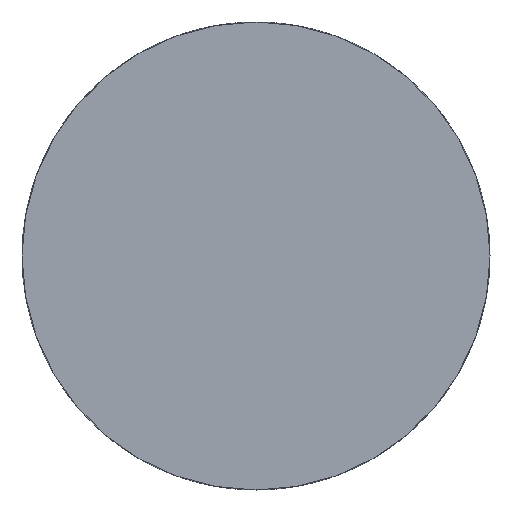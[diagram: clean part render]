
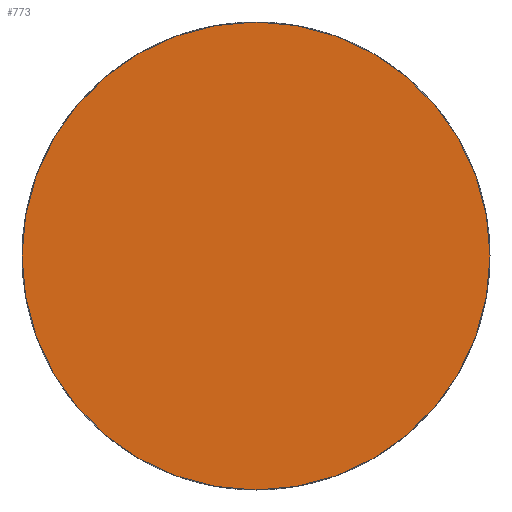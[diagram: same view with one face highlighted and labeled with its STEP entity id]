
A CAD part, left-side view. The second image highlights one B-rep face of the part: STEP entity #773.
In plain terms, the highlighted planar face has unit normal (-1, 0, 0).
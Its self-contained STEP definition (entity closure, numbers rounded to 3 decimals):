
#773 = ADVANCED_FACE( '', ( #1577 ), #1578, .F. );
#1577 = FACE_OUTER_BOUND( '', #2410, .T. );
#1578 = PLANE( '', #2411 );
#2410 = EDGE_LOOP( '', ( #4822 ) );
#2411 = AXIS2_PLACEMENT_3D( '', #4823, #4824, #4825 );
#4822 = ORIENTED_EDGE( '', *, *, #6297, .F. );
#4823 = CARTESIAN_POINT( '', ( 0., 0., 0. ) );
#4824 = DIRECTION( '', ( 1., 0., 0. ) );
#4825 = DIRECTION( '', ( 0., 0., -1. ) );
#6297 = EDGE_CURVE( '', #7933, #7933, #7934, .T. );
#7933 = VERTEX_POINT( '', #10032 );
#7934 = CIRCLE( '', #10033, 15.855 );
#10032 = CARTESIAN_POINT( '', ( 0., 0., -15.855 ) );
#10033 = AXIS2_PLACEMENT_3D( '', #11577, #11578, #11579 );
#11577 = CARTESIAN_POINT( '', ( 0., 0., 0. ) );
#11578 = DIRECTION( '', ( 1., 0., 0. ) );
#11579 = DIRECTION( '', ( 0., 0., -1. ) );
